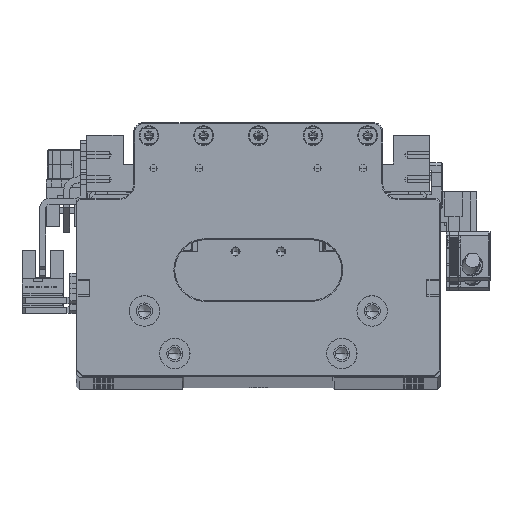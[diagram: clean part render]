
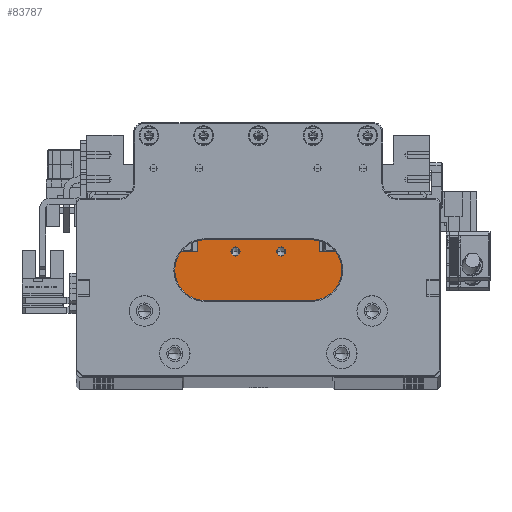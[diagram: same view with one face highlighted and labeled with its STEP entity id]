
A CAD part, top view. The second image highlights one B-rep face of the part: STEP entity #83787.
In plain terms, the highlighted planar face has unit normal (0, 0, 1).
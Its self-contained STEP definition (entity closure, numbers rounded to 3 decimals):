
#1045 = DIRECTION ( 'NONE',  ( 1., 0., 0. ) ) ;
#2136 = CARTESIAN_POINT ( 'NONE',  ( -9.194, -1.296, 411.036 ) ) ;
#2272 = EDGE_CURVE ( 'NONE', #4274, #20887, #22729, .T. ) ;
#2443 = CARTESIAN_POINT ( 'NONE',  ( -7.669, 6.304, 411.036 ) ) ;
#3766 = CARTESIAN_POINT ( 'NONE',  ( -10.719, 6.304, 411.036 ) ) ;
#4212 = VECTOR ( 'NONE', #76626, 1000. ) ;
#4274 = VERTEX_POINT ( 'NONE', #2443 ) ;
#4347 = VERTEX_POINT ( 'NONE', #33820 ) ;
#5357 = LINE ( 'NONE', #24839, #121082 ) ;
#5846 = ORIENTED_EDGE ( 'NONE', *, *, #106511, .F. ) ;
#6484 = VERTEX_POINT ( 'NONE', #138794 ) ;
#6668 = FACE_BOUND ( 'NONE', #95819, .T. ) ;
#10312 = AXIS2_PLACEMENT_3D ( 'NONE', #61398, #139676, #72654 ) ;
#13536 = DIRECTION ( 'NONE',  ( 0., 0., -1. ) ) ;
#14188 = CIRCLE ( 'NONE', #98850, 1.525 ) ;
#18412 = LINE ( 'NONE', #99771, #137527 ) ;
#18535 = VECTOR ( 'NONE', #60263, 1000. ) ;
#18676 = VERTEX_POINT ( 'NONE', #26010 ) ;
#19670 = LINE ( 'NONE', #123793, #79296 ) ;
#20887 = VERTEX_POINT ( 'NONE', #3766 ) ;
#22330 = EDGE_LOOP ( 'NONE', ( #76439, #25759 ) ) ;
#22729 = CIRCLE ( 'NONE', #127543, 1.525 ) ;
#24839 = CARTESIAN_POINT ( 'NONE',  ( -9.194, 10.204, 411.036 ) ) ;
#25759 = ORIENTED_EDGE ( 'NONE', *, *, #107974, .F. ) ;
#26010 = CARTESIAN_POINT ( 'NONE',  ( 7.331, 6.304, 411.036 ) ) ;
#27645 = EDGE_CURVE ( 'NONE', #18676, #38414, #14188, .T. ) ;
#29253 = ORIENTED_EDGE ( 'NONE', *, *, #42428, .T. ) ;
#30352 = EDGE_LOOP ( 'NONE', ( #141534, #5846, #29253, #72728, #140215, #83843, #93662, #89031 ) ) ;
#30939 = DIRECTION ( 'NONE',  ( 0., 1., 0. ) ) ;
#33820 = CARTESIAN_POINT ( 'NONE',  ( -31.594, -12.996, 411.036 ) ) ;
#34366 = VECTOR ( 'NONE', #81840, 1000. ) ;
#38414 = VERTEX_POINT ( 'NONE', #108478 ) ;
#39197 = EDGE_CURVE ( 'NONE', #20887, #4274, #131316, .T. ) ;
#40036 = FACE_BOUND ( 'NONE', #22330, .T. ) ;
#42366 = CARTESIAN_POINT ( 'NONE',  ( 28.206, 6.204, 411.036 ) ) ;
#42428 = EDGE_CURVE ( 'NONE', #4347, #62152, #18412, .T. ) ;
#44055 = LINE ( 'NONE', #127772, #96637 ) ;
#44160 = VERTEX_POINT ( 'NONE', #132499 ) ;
#47388 = DIRECTION ( 'NONE',  ( 1., 0., 0. ) ) ;
#49455 = DIRECTION ( 'NONE',  ( 0., -1., 0. ) ) ;
#51834 = DIRECTION ( 'NONE',  ( 0., 0., 1. ) ) ;
#54240 = ORIENTED_EDGE ( 'NONE', *, *, #2272, .F. ) ;
#55015 = VERTEX_POINT ( 'NONE', #98831 ) ;
#56737 = DIRECTION ( 'NONE',  ( 1., 0., 0. ) ) ;
#60263 = DIRECTION ( 'NONE',  ( 0., 1., 0. ) ) ;
#61398 = CARTESIAN_POINT ( 'NONE',  ( 5.806, 6.304, 411.036 ) ) ;
#62152 = VERTEX_POINT ( 'NONE', #69922 ) ;
#66715 = DIRECTION ( 'NONE',  ( 0., 0., 1. ) ) ;
#68329 = DIRECTION ( 'NONE',  ( 0., 0., 1. ) ) ;
#69431 = PLANE ( 'NONE',  #99662 ) ;
#69922 = CARTESIAN_POINT ( 'NONE',  ( 28.206, -12.996, 411.036 ) ) ;
#72654 = DIRECTION ( 'NONE',  ( 1., 0., 0. ) ) ;
#72728 = ORIENTED_EDGE ( 'NONE', *, *, #134555, .F. ) ;
#72924 = VERTEX_POINT ( 'NONE', #126219 ) ;
#76439 = ORIENTED_EDGE ( 'NONE', *, *, #27645, .F. ) ;
#76626 = DIRECTION ( 'NONE',  ( 0., -1., 0. ) ) ;
#78150 = LINE ( 'NONE', #81849, #18535 ) ;
#79296 = VECTOR ( 'NONE', #56737, 1000. ) ;
#81053 = CARTESIAN_POINT ( 'NONE',  ( 18.306, 10.204, 411.036 ) ) ;
#81840 = DIRECTION ( 'NONE',  ( 1., 0., 0. ) ) ;
#81849 = CARTESIAN_POINT ( 'NONE',  ( -21.694, -1.296, 411.036 ) ) ;
#83787 = ADVANCED_FACE ( 'NONE', ( #92642, #40036, #6668 ), #69431, .F. ) ;
#83843 = ORIENTED_EDGE ( 'NONE', *, *, #132680, .F. ) ;
#88522 = DIRECTION ( 'NONE',  ( 1., 0., 0. ) ) ;
#89031 = ORIENTED_EDGE ( 'NONE', *, *, #133751, .F. ) ;
#89539 = EDGE_CURVE ( 'NONE', #44160, #114906, #5357, .T. ) ;
#91889 = DIRECTION ( 'NONE',  ( -1., 0., 0. ) ) ;
#92642 = FACE_OUTER_BOUND ( 'NONE', #30352, .T. ) ;
#93044 = CARTESIAN_POINT ( 'NONE',  ( -9.194, 6.204, 411.036 ) ) ;
#93662 = ORIENTED_EDGE ( 'NONE', *, *, #89539, .F. ) ;
#95819 = EDGE_LOOP ( 'NONE', ( #54240, #113295 ) ) ;
#96637 = VECTOR ( 'NONE', #49455, 1000. ) ;
#97461 = LINE ( 'NONE', #93044, #34366 ) ;
#98071 = CARTESIAN_POINT ( 'NONE',  ( -31.594, -1.296, 411.036 ) ) ;
#98831 = CARTESIAN_POINT ( 'NONE',  ( -21.694, 6.204, 411.036 ) ) ;
#98850 = AXIS2_PLACEMENT_3D ( 'NONE', #118863, #51834, #130086 ) ;
#99662 = AXIS2_PLACEMENT_3D ( 'NONE', #2136, #13536, #91889 ) ;
#99771 = CARTESIAN_POINT ( 'NONE',  ( -9.194, -12.996, 411.036 ) ) ;
#101277 = EDGE_CURVE ( 'NONE', #6484, #55015, #97461, .T. ) ;
#103160 = AXIS2_PLACEMENT_3D ( 'NONE', #133694, #66715, #145006 ) ;
#106511 = EDGE_CURVE ( 'NONE', #4347, #6484, #110422, .T. ) ;
#107974 = EDGE_CURVE ( 'NONE', #38414, #18676, #138078, .T. ) ;
#108478 = CARTESIAN_POINT ( 'NONE',  ( 4.281, 6.304, 411.036 ) ) ;
#110422 = LINE ( 'NONE', #98071, #143720 ) ;
#113295 = ORIENTED_EDGE ( 'NONE', *, *, #39197, .F. ) ;
#114906 = VERTEX_POINT ( 'NONE', #81053 ) ;
#118863 = CARTESIAN_POINT ( 'NONE',  ( 5.806, 6.304, 411.036 ) ) ;
#119937 = LINE ( 'NONE', #121593, #4212 ) ;
#121082 = VECTOR ( 'NONE', #47388, 1000. ) ;
#121593 = CARTESIAN_POINT ( 'NONE',  ( 28.206, -1.296, 411.036 ) ) ;
#123318 = VERTEX_POINT ( 'NONE', #42366 ) ;
#123793 = CARTESIAN_POINT ( 'NONE',  ( -9.194, 6.204, 411.036 ) ) ;
#126219 = CARTESIAN_POINT ( 'NONE',  ( 18.306, 6.204, 411.036 ) ) ;
#127543 = AXIS2_PLACEMENT_3D ( 'NONE', #135296, #68329, #1045 ) ;
#127772 = CARTESIAN_POINT ( 'NONE',  ( 18.306, -1.296, 411.036 ) ) ;
#130086 = DIRECTION ( 'NONE',  ( 1., 0., 0. ) ) ;
#131316 = CIRCLE ( 'NONE', #103160, 1.525 ) ;
#132499 = CARTESIAN_POINT ( 'NONE',  ( -21.694, 10.204, 411.036 ) ) ;
#132680 = EDGE_CURVE ( 'NONE', #114906, #72924, #44055, .T. ) ;
#133694 = CARTESIAN_POINT ( 'NONE',  ( -9.194, 6.304, 411.036 ) ) ;
#133751 = EDGE_CURVE ( 'NONE', #55015, #44160, #78150, .T. ) ;
#134555 = EDGE_CURVE ( 'NONE', #123318, #62152, #119937, .T. ) ;
#135296 = CARTESIAN_POINT ( 'NONE',  ( -9.194, 6.304, 411.036 ) ) ;
#137527 = VECTOR ( 'NONE', #88522, 1000. ) ;
#138078 = CIRCLE ( 'NONE', #10312, 1.525 ) ;
#138794 = CARTESIAN_POINT ( 'NONE',  ( -31.594, 6.204, 411.036 ) ) ;
#139676 = DIRECTION ( 'NONE',  ( 0., 0., 1. ) ) ;
#140215 = ORIENTED_EDGE ( 'NONE', *, *, #142911, .F. ) ;
#141534 = ORIENTED_EDGE ( 'NONE', *, *, #101277, .F. ) ;
#142911 = EDGE_CURVE ( 'NONE', #72924, #123318, #19670, .T. ) ;
#143720 = VECTOR ( 'NONE', #30939, 1000. ) ;
#145006 = DIRECTION ( 'NONE',  ( 1., 0., 0. ) ) ;
